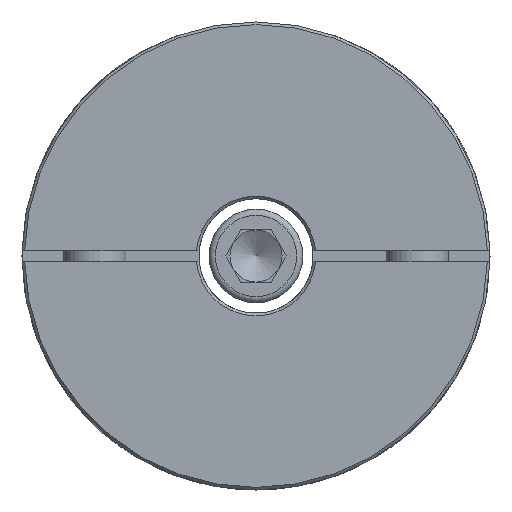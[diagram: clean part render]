
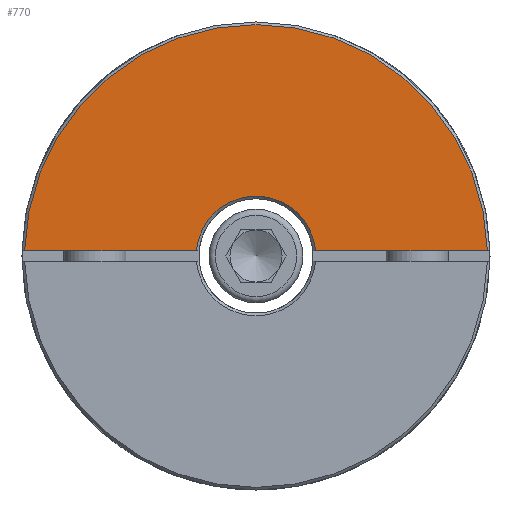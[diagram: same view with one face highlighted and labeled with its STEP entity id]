
A CAD part, left-side view. The second image highlights one B-rep face of the part: STEP entity #770.
In plain terms, the highlighted planar face has unit normal (-1, 0, 0) as drawn and (1, 0, 0) by its records, which use the part's own axes.
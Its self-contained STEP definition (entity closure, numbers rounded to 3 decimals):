
#770 = ADVANCED_FACE( '', ( #1160 ), #1161, .T. );
#1160 = FACE_OUTER_BOUND( '', #1392, .T. );
#1161 = PLANE( '', #1393 );
#1392 = EDGE_LOOP( '', ( #1700, #1701, #1702, #1703 ) );
#1393 = AXIS2_PLACEMENT_3D( '', #1704, #1705, #1706 );
#1700 = ORIENTED_EDGE( '', *, *, #2162, .F. );
#1701 = ORIENTED_EDGE( '', *, *, #2149, .T. );
#1702 = ORIENTED_EDGE( '', *, *, #2163, .F. );
#1703 = ORIENTED_EDGE( '', *, *, #2147, .T. );
#1704 = CARTESIAN_POINT( '', ( 41., 0., 45. ) );
#1705 = DIRECTION( '', ( 1., 0., 0. ) );
#1706 = DIRECTION( '', ( 0., 0., -1. ) );
#2147 = EDGE_CURVE( '', #2399, #2403, #2405, .F. );
#2149 = EDGE_CURVE( '', #2409, #2406, #2410, .T. );
#2162 = EDGE_CURVE( '', #2409, #2403, #2433, .T. );
#2163 = EDGE_CURVE( '', #2399, #2406, #2434, .T. );
#2399 = VERTEX_POINT( '', #2551 );
#2403 = VERTEX_POINT( '', #2558 );
#2405 = CIRCLE( '', #2563, 11.5 );
#2406 = VERTEX_POINT( '', #2564 );
#2409 = VERTEX_POINT( '', #2570 );
#2410 = CIRCLE( '', #2571, 44.5 );
#2433 = LINE( '', #2791, #2792 );
#2434 = LINE( '', #2793, #2794 );
#2551 = CARTESIAN_POINT( '', ( 41., -11.456, 1. ) );
#2558 = CARTESIAN_POINT( '', ( 41., 11.456, 1. ) );
#2563 = AXIS2_PLACEMENT_3D( '', #3117, #3118, #3119 );
#2564 = CARTESIAN_POINT( '', ( 41., -44.489, 1. ) );
#2570 = CARTESIAN_POINT( '', ( 41., 44.489, 1. ) );
#2571 = AXIS2_PLACEMENT_3D( '', #3120, #3121, #3122 );
#2791 = CARTESIAN_POINT( '', ( 41., 0., 1. ) );
#2792 = VECTOR( '', #3146, 1000. );
#2793 = CARTESIAN_POINT( '', ( 41., 0., 1. ) );
#2794 = VECTOR( '', #3147, 1000. );
#3117 = CARTESIAN_POINT( '', ( 41., 0., 0. ) );
#3118 = DIRECTION( '', ( 1., 0., 0. ) );
#3119 = DIRECTION( '', ( 0., 0., -1. ) );
#3120 = CARTESIAN_POINT( '', ( 41., 0., 0. ) );
#3121 = DIRECTION( '', ( 1., 0., 0. ) );
#3122 = DIRECTION( '', ( 0., 0., -1. ) );
#3146 = DIRECTION( '', ( 0., -1., 0. ) );
#3147 = DIRECTION( '', ( 0., -1., 0. ) );
